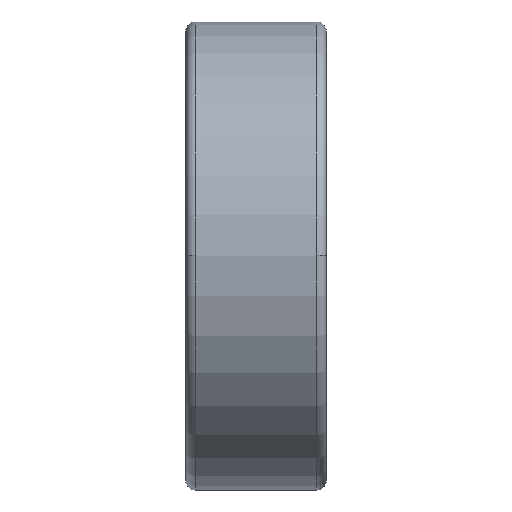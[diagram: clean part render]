
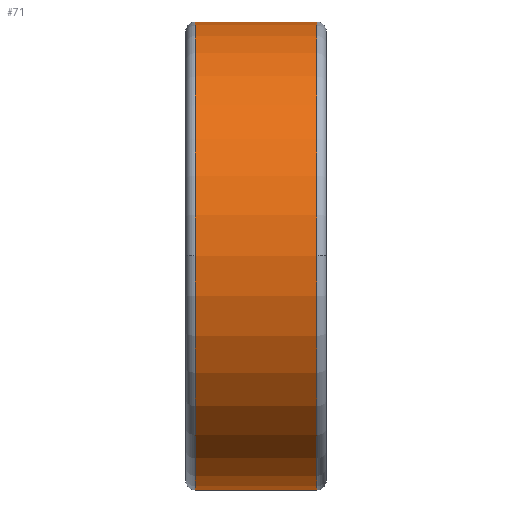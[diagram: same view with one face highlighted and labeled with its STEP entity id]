
A CAD part, top view. The second image highlights one B-rep face of the part: STEP entity #71.
In plain terms, the highlighted cylindrical face has radius 15 mm (diameter 30 mm), a partial arc.
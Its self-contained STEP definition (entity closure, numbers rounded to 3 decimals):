
#71=ADVANCED_FACE('',(#161),#162,.T.);
#161=FACE_OUTER_BOUND('',#341,.T.);
#162=CYLINDRICAL_SURFACE('',#342,15.0);
#341=EDGE_LOOP('',(#576,#577,#578,#579,#580,#581));
#342=AXIS2_PLACEMENT_3D('',#582,#583,#584);
#576=ORIENTED_EDGE('',*,*,#1156,.F.);
#577=ORIENTED_EDGE('',*,*,#1157,.T.);
#578=ORIENTED_EDGE('',*,*,#1158,.T.);
#579=ORIENTED_EDGE('',*,*,#1159,.F.);
#580=ORIENTED_EDGE('',*,*,#1160,.F.);
#581=ORIENTED_EDGE('',*,*,#1152,.F.);
#582=CARTESIAN_POINT('',(4.5,0.0,0.0));
#583=DIRECTION('',(1.0,0.0,0.0));
#584=DIRECTION('',(0.0,1.0,0.0));
#1152=EDGE_CURVE('',#1364,#1366,#1367,.T.);
#1156=EDGE_CURVE('',#1373,#1364,#1374,.T.);
#1157=EDGE_CURVE('',#1373,#1375,#1376,.T.);
#1158=EDGE_CURVE('',#1375,#1377,#1378,.T.);
#1159=EDGE_CURVE('',#1379,#1377,#1380,.T.);
#1160=EDGE_CURVE('',#1366,#1379,#1381,.T.);
#1364=VERTEX_POINT('',#1682);
#1366=VERTEX_POINT('',#1684);
#1367=CIRCLE('',#1685,15.0);
#1373=VERTEX_POINT('',#1691);
#1374=LINE('',#1692,#1693);
#1375=VERTEX_POINT('',#1694);
#1376=CIRCLE('',#1695,15.0);
#1377=VERTEX_POINT('',#1696);
#1378=CIRCLE('',#1697,15.0);
#1379=VERTEX_POINT('',#1698);
#1380=LINE('',#1699,#1700);
#1381=CIRCLE('',#1701,15.0);
#1682=CARTESIAN_POINT('',(8.4,15.0,0.0));
#1684=CARTESIAN_POINT('',(8.4,0.,15.0));
#1685=AXIS2_PLACEMENT_3D('',#2598,#2599,#2600);
#1691=CARTESIAN_POINT('',(0.6,15.0,0.0));
#1692=CARTESIAN_POINT('',(4.5,15.0,0.));
#1693=VECTOR('',#2610,1.0);
#1694=CARTESIAN_POINT('',(0.6,0.,15.0));
#1695=AXIS2_PLACEMENT_3D('',#2611,#2612,#2613);
#1696=CARTESIAN_POINT('',(0.6,-15.0,0.));
#1697=AXIS2_PLACEMENT_3D('',#2614,#2615,#2616);
#1698=CARTESIAN_POINT('',(8.4,-15.0,0.));
#1699=CARTESIAN_POINT('',(4.5,-15.0,0.));
#1700=VECTOR('',#2617,1.0);
#1701=AXIS2_PLACEMENT_3D('',#2618,#2619,#2620);
#2598=CARTESIAN_POINT('',(8.4,0.0,0.0));
#2599=DIRECTION('',(1.0,0.0,0.0));
#2600=DIRECTION('',(0.0,1.0,0.0));
#2610=DIRECTION('',(1.0,0.0,0.0));
#2611=CARTESIAN_POINT('',(0.6,0.0,0.0));
#2612=DIRECTION('',(1.0,0.0,0.0));
#2613=DIRECTION('',(0.0,1.0,0.0));
#2614=CARTESIAN_POINT('',(0.6,0.0,0.0));
#2615=DIRECTION('',(1.0,0.0,0.0));
#2616=DIRECTION('',(0.0,1.0,0.0));
#2617=DIRECTION('',(-1.0,-0.0,-0.0));
#2618=CARTESIAN_POINT('',(8.4,0.0,0.0));
#2619=DIRECTION('',(1.0,0.0,0.0));
#2620=DIRECTION('',(0.0,1.0,0.0));
